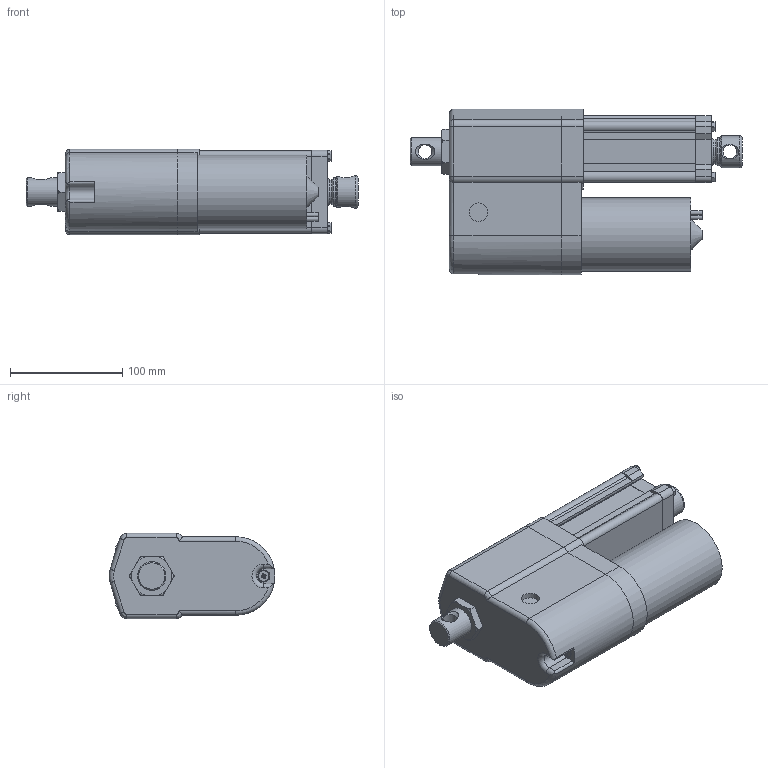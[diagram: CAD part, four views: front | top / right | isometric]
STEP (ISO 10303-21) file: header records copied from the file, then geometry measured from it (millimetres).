
FILE_DESCRIPTION( ( 'STEP AP203' ), '1' );
FILE_NAME( 'p:/temp/worker_341/temp/exporttempdir_6364_1690_TSvW2/format_0/DA12-05A65M05M0NPO-AMM.stp', '2020-04-12T19:03:29', ( 'License CC BY-ND 4.0' ), ( 'CADENAS' ), ' ', 'PARTsolutions', ' ' );
FILE_SCHEMA( ( 'CONFIG_CONTROL_DESIGN' ) );
Length unit declared in the file: millimetre
Products named in the file (8): DA12-05A65M05M0NPO-AMM; _ELECTRAK-LA14-DA12-05A65MM0NPO-05M-EU-REAR; _Electrak-10-EU-RA-D602700; _D602768eu; _ELECTRAK-LA14-DA12--MOTOR; _DA12-05A65M05M0NPOAMMtube; _ELECTRAK-LA14-DA12--05-PLATE; _ELECTRAK-LA14-DA12--0505A65MNPOM-ROD
Assembly tree (7 placements, depth 2):
  DA12-05A65M05M0NPO-AMM
    _ELECTRAK-LA14-DA12-05A65MM0NPO-05M-EU-REAR
    _Electrak-10-EU-RA-D602700
    _D602768eu
    _ELECTRAK-LA14-DA12--MOTOR
    _DA12-05A65M05M0NPOAMMtube
    _ELECTRAK-LA14-DA12--05-PLATE
    _ELECTRAK-LA14-DA12--0505A65MNPOM-ROD
Bounding box: 296.05 x 148 x 76.2 mm (x, y, z)
Volume: 1732279.8 mm3; surface area: 214036.5 mm2
Topology: 7 solids, 8 shells, 378 faces, 942 edges, 611 vertices
Faces by surface type: plane 184, cylinder 131, cone 45, torus 14, bspline 4
Full cylindrical faces by diameter (mm): 4 x2, 4.126 x1, 4.8 x5, 5 x5, 5.6 x4, 7.878 x4, 9.398 x1, 12.2 x2, 16 x1, 16.5 x1, 21.8 x1, 25.2 x1, 25.4 x1, 26.24 x1, 28.5 x1, 28.6 x2, 47.625 x1, 65.3 x1
Entity records: 11834 total; most frequent: CARTESIAN_POINT 2729, DIRECTION 1869, ORIENTED_EDGE 1744, EDGE_CURVE 872, AXIS2_PLACEMENT_3D 702, VERTEX_POINT 602, EDGE_LOOP 485, LINE 465
